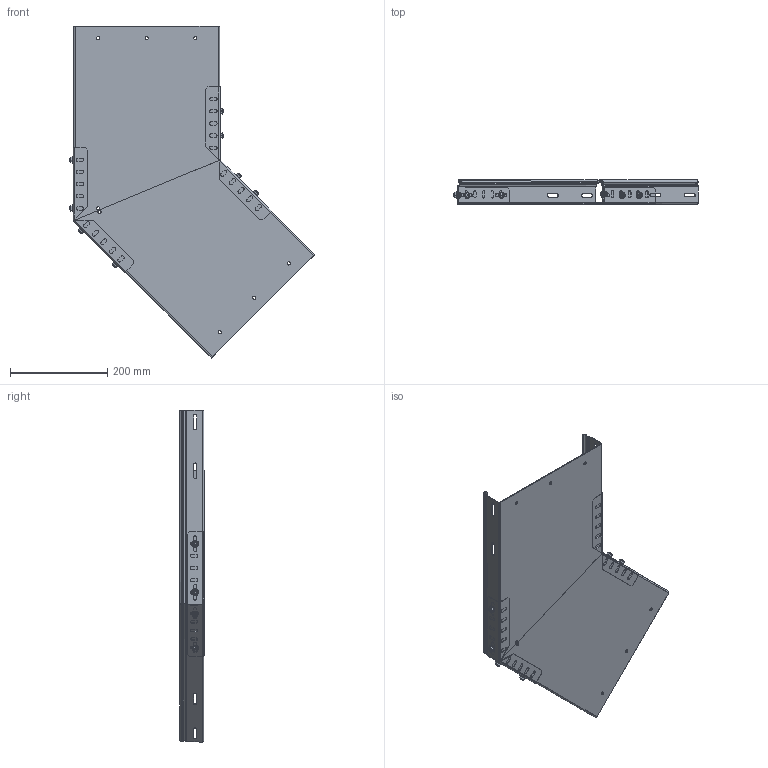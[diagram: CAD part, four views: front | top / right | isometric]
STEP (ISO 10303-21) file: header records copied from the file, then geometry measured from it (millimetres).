
FILE_DESCRIPTION (( 'STEP AP214' ), '1' );
FILE_NAME ('ﾑﾋﾓﾈ+ﾓﾋ(ﾍ)_50.STEP', '2016-10-06T21:10:46', ( '' ), ( '' ), 'SwSTEP 2.0', 'SolidWorks 2016', '' );
FILE_SCHEMA (( 'AUTOMOTIVE_DESIGN' ));
Length unit declared in the file: millimetre
Products named in the file (7): ﾑﾋﾓﾈ+ﾓﾋ(ﾍ)_50; ÓË(Í)-300õÍõ550_®¡à¥§; 084015-084030 捀蚧 蚎_50 (45╲亥); 084015-084030 ÑËÓÈ ÓË_50 (45­¢ãâà); ÓË(Í)-300õÍõ550_®¡à¥§-¤à; pan head cross recess screw_din_ISO 7045 - M6 x 10 - Z --- 10N; hex flange nut_din_Hexagon Flange Nut DIN 6923 - M6 - N
Assembly tree (20 placements, depth 2):
  ﾑﾋﾓﾈ+ﾓﾋ(ﾍ)_50
    ÓË(Í)-300õÍõ550_®¡à¥§
    084015-084030 捀蚧 蚎_50 (45╲亥)
    084015-084030 ÑËÓÈ ÓË_50 (45­¢ãâà)
    ÓË(Í)-300õÍõ550_®¡à¥§-¤à
    pan head cross recess screw_din_ISO 7045 - M6 x 10 - Z --- 10N  x8
    hex flange nut_din_Hexagon Flange Nut DIN 6923 - M6 - N  x8
Bounding box: 503.55 x 51 x 682.81 mm (x, y, z)
Volume: 459867.9 mm3; surface area: 640780.4 mm2
Topology: 20 solids, 20 shells, 969 faces, 2423 edges, 1482 vertices
Faces by surface type: plane 446, cylinder 263, cone 144, bspline 52, torus 48, sphere 16
Entity records: 16573 total; most frequent: CARTESIAN_POINT 3320, DIRECTION 2707, ORIENTED_EDGE 2686, EDGE_CURVE 1343, AXIS2_PLACEMENT_3D 940, VERTEX_POINT 845, VECTOR 827, LINE 827
